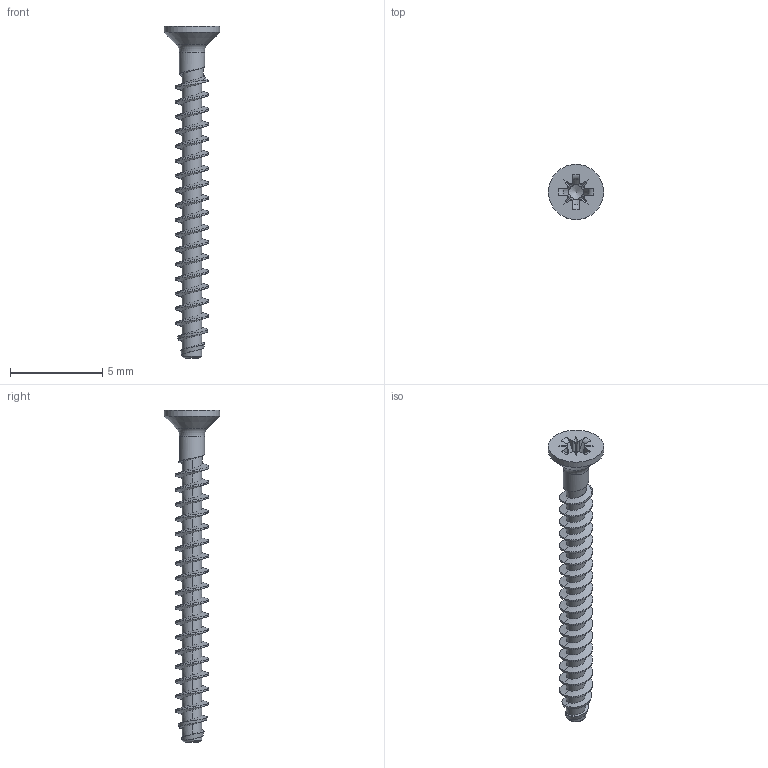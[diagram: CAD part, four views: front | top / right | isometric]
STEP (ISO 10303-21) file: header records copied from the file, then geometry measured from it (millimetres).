
FILE_DESCRIPTION(/* description */ (''),/* implementation_level */ '2;1');
FILE_NAME(/* name */ 'KN1033-STS-18x18-Z0.step',/* time_stamp */ '2017-10-20T12:09:00+02:00',/* author */ (''),/* organization */ (''),/* preprocessor_version */ 'ST-DEVELOPER v16',/* originating_system */ 'SIEMENS PLM Software NX 10.0',/* authorisation */ '');
FILE_SCHEMA (('AUTOMOTIVE_DESIGN { 1 0 10303 214 3 1 1 1 }'));
Length unit declared in the file: millimetre
Products named in the file (1): KN1033-STS-18x16-Z0
Bounding box: 3 x 3 x 18 mm (x, y, z)
Volume: 26 mm3; surface area: 132.9 mm2
Topology: 1 solids, 1 shells, 114 faces, 290 edges, 178 vertices
Faces by surface type: bspline 62, plane 26, cylinder 12, cone 8, torus 6
Full cylindrical faces by diameter (mm): 1.36 x1, 3 x1
Entity records: 7314 total; most frequent: CARTESIAN_POINT 5058, ORIENTED_EDGE 554, DIRECTION 285, EDGE_CURVE 277, VERTEX_POINT 173, B_SPLINE_CURVE_WITH_KNOTS 133, EDGE_LOOP 119, ADVANCED_FACE 113
